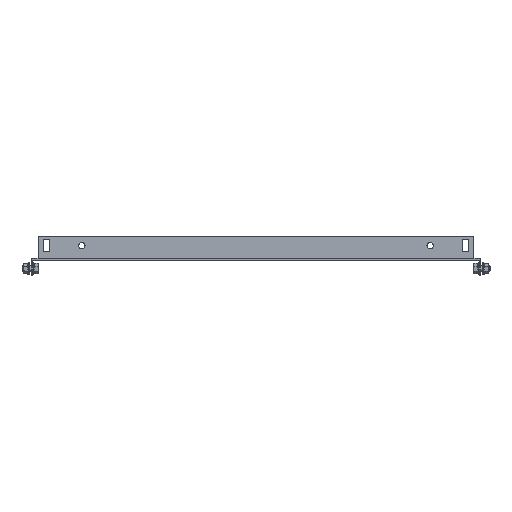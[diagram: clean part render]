
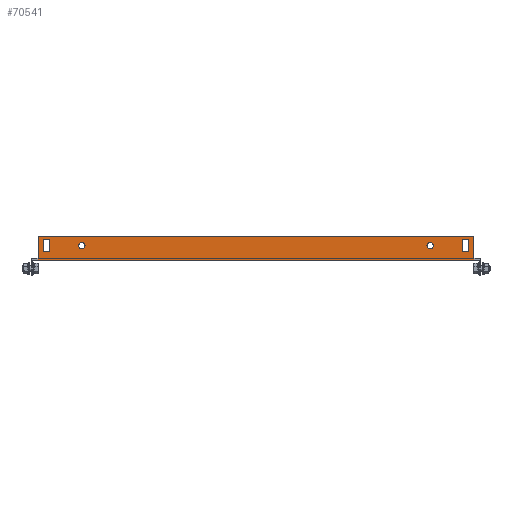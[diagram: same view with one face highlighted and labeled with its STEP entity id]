
A CAD part, front view. The second image highlights one B-rep face of the part: STEP entity #70541.
In plain terms, the highlighted planar face has unit normal (0, -1, 0).
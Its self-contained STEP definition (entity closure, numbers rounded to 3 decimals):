
#63336 = VERTEX_POINT('',#63337);
#63337 = CARTESIAN_POINT('',(242.,-284.5,0.));
#63343 = EDGE_CURVE('',#63344,#63336,#63346,.T.);
#63344 = VERTEX_POINT('',#63345);
#63345 = CARTESIAN_POINT('',(-242.,-284.5,0.));
#63346 = LINE('',#63347,#63348);
#63347 = CARTESIAN_POINT('',(-242.,-284.5,0.));
#63348 = VECTOR('',#63349,1.);
#63349 = DIRECTION('',(1.,-0.,-0.));
#70420 = VERTEX_POINT('',#70421);
#70421 = CARTESIAN_POINT('',(-242.,-284.5,2.6));
#70436 = EDGE_CURVE('',#70420,#63344,#70437,.T.);
#70437 = LINE('',#70438,#70439);
#70438 = CARTESIAN_POINT('',(-242.,-284.5,2.6));
#70439 = VECTOR('',#70440,1.);
#70440 = DIRECTION('',(0.,0.,-1.));
#70460 = VERTEX_POINT('',#70461);
#70461 = CARTESIAN_POINT('',(242.,-284.5,2.6));
#70467 = EDGE_CURVE('',#70460,#63336,#70468,.T.);
#70468 = LINE('',#70469,#70470);
#70469 = CARTESIAN_POINT('',(242.,-284.5,2.));
#70470 = VECTOR('',#70471,1.);
#70471 = DIRECTION('',(-0.,0.,-1.));
#70493 = VERTEX_POINT('',#70494);
#70494 = CARTESIAN_POINT('',(242.,-284.5,26.));
#70500 = EDGE_CURVE('',#70460,#70493,#70501,.T.);
#70501 = LINE('',#70502,#70503);
#70502 = CARTESIAN_POINT('',(242.,-284.5,26.));
#70503 = VECTOR('',#70504,1.);
#70504 = DIRECTION('',(-0.,0.,1.));
#70515 = EDGE_CURVE('',#70516,#70420,#70518,.T.);
#70516 = VERTEX_POINT('',#70517);
#70517 = CARTESIAN_POINT('',(-242.,-284.5,26.));
#70518 = LINE('',#70519,#70520);
#70519 = CARTESIAN_POINT('',(-242.,-284.5,2.));
#70520 = VECTOR('',#70521,1.);
#70521 = DIRECTION('',(-0.,0.,-1.));
#70541 = ADVANCED_FACE('',(#70542,#70576,#70587,#70598,#70632),#70645,
  .F.);
#70542 = FACE_BOUND('',#70543,.T.);
#70543 = EDGE_LOOP('',(#70544,#70554,#70562,#70570));
#70544 = ORIENTED_EDGE('',*,*,#70545,.F.);
#70545 = EDGE_CURVE('',#70546,#70548,#70550,.T.);
#70546 = VERTEX_POINT('',#70547);
#70547 = CARTESIAN_POINT('',(236.5,-284.5,9.));
#70548 = VERTEX_POINT('',#70549);
#70549 = CARTESIAN_POINT('',(236.5,-284.5,23.));
#70550 = LINE('',#70551,#70552);
#70551 = CARTESIAN_POINT('',(236.5,-284.5,23.));
#70552 = VECTOR('',#70553,1.);
#70553 = DIRECTION('',(-0.,-0.,1.));
#70554 = ORIENTED_EDGE('',*,*,#70555,.F.);
#70555 = EDGE_CURVE('',#70556,#70546,#70558,.T.);
#70556 = VERTEX_POINT('',#70557);
#70557 = CARTESIAN_POINT('',(229.5,-284.5,9.));
#70558 = LINE('',#70559,#70560);
#70559 = CARTESIAN_POINT('',(236.5,-284.5,9.));
#70560 = VECTOR('',#70561,1.);
#70561 = DIRECTION('',(1.,-0.,-0.));
#70562 = ORIENTED_EDGE('',*,*,#70563,.F.);
#70563 = EDGE_CURVE('',#70564,#70556,#70566,.T.);
#70564 = VERTEX_POINT('',#70565);
#70565 = CARTESIAN_POINT('',(229.5,-284.5,23.));
#70566 = LINE('',#70567,#70568);
#70567 = CARTESIAN_POINT('',(229.5,-284.5,9.));
#70568 = VECTOR('',#70569,1.);
#70569 = DIRECTION('',(0.,-0.,-1.));
#70570 = ORIENTED_EDGE('',*,*,#70571,.F.);
#70571 = EDGE_CURVE('',#70548,#70564,#70572,.T.);
#70572 = LINE('',#70573,#70574);
#70573 = CARTESIAN_POINT('',(229.5,-284.5,23.));
#70574 = VECTOR('',#70575,1.);
#70575 = DIRECTION('',(-1.,-0.,-0.));
#70576 = FACE_BOUND('',#70577,.T.);
#70577 = EDGE_LOOP('',(#70578));
#70578 = ORIENTED_EDGE('',*,*,#70579,.F.);
#70579 = EDGE_CURVE('',#70580,#70580,#70582,.T.);
#70580 = VERTEX_POINT('',#70581);
#70581 = CARTESIAN_POINT('',(193.5,-284.5,19.5));
#70582 = CIRCLE('',#70583,3.5);
#70583 = AXIS2_PLACEMENT_3D('',#70584,#70585,#70586);
#70584 = CARTESIAN_POINT('',(193.5,-284.5,16.));
#70585 = DIRECTION('',(0.,-1.,0.));
#70586 = DIRECTION('',(0.,0.,1.));
#70587 = FACE_BOUND('',#70588,.T.);
#70588 = EDGE_LOOP('',(#70589));
#70589 = ORIENTED_EDGE('',*,*,#70590,.F.);
#70590 = EDGE_CURVE('',#70591,#70591,#70593,.T.);
#70591 = VERTEX_POINT('',#70592);
#70592 = CARTESIAN_POINT('',(-193.5,-284.5,12.5));
#70593 = CIRCLE('',#70594,3.5);
#70594 = AXIS2_PLACEMENT_3D('',#70595,#70596,#70597);
#70595 = CARTESIAN_POINT('',(-193.5,-284.5,16.));
#70596 = DIRECTION('',(0.,-1.,0.));
#70597 = DIRECTION('',(0.,0.,-1.));
#70598 = FACE_BOUND('',#70599,.T.);
#70599 = EDGE_LOOP('',(#70600,#70610,#70618,#70626));
#70600 = ORIENTED_EDGE('',*,*,#70601,.F.);
#70601 = EDGE_CURVE('',#70602,#70604,#70606,.T.);
#70602 = VERTEX_POINT('',#70603);
#70603 = CARTESIAN_POINT('',(-236.5,-284.5,23.));
#70604 = VERTEX_POINT('',#70605);
#70605 = CARTESIAN_POINT('',(-236.5,-284.5,9.));
#70606 = LINE('',#70607,#70608);
#70607 = CARTESIAN_POINT('',(-236.5,-284.5,9.));
#70608 = VECTOR('',#70609,1.);
#70609 = DIRECTION('',(-0.,-0.,-1.));
#70610 = ORIENTED_EDGE('',*,*,#70611,.F.);
#70611 = EDGE_CURVE('',#70612,#70602,#70614,.T.);
#70612 = VERTEX_POINT('',#70613);
#70613 = CARTESIAN_POINT('',(-229.5,-284.5,23.));
#70614 = LINE('',#70615,#70616);
#70615 = CARTESIAN_POINT('',(-236.5,-284.5,23.));
#70616 = VECTOR('',#70617,1.);
#70617 = DIRECTION('',(-1.,-0.,-0.));
#70618 = ORIENTED_EDGE('',*,*,#70619,.F.);
#70619 = EDGE_CURVE('',#70620,#70612,#70622,.T.);
#70620 = VERTEX_POINT('',#70621);
#70621 = CARTESIAN_POINT('',(-229.5,-284.5,9.));
#70622 = LINE('',#70623,#70624);
#70623 = CARTESIAN_POINT('',(-229.5,-284.5,23.));
#70624 = VECTOR('',#70625,1.);
#70625 = DIRECTION('',(-0.,-0.,1.));
#70626 = ORIENTED_EDGE('',*,*,#70627,.F.);
#70627 = EDGE_CURVE('',#70604,#70620,#70628,.T.);
#70628 = LINE('',#70629,#70630);
#70629 = CARTESIAN_POINT('',(-229.5,-284.5,9.));
#70630 = VECTOR('',#70631,1.);
#70631 = DIRECTION('',(1.,-0.,-0.));
#70632 = FACE_BOUND('',#70633,.T.);
#70633 = EDGE_LOOP('',(#70634,#70635,#70636,#70637,#70638,#70639));
#70634 = ORIENTED_EDGE('',*,*,#70515,.T.);
#70635 = ORIENTED_EDGE('',*,*,#70436,.T.);
#70636 = ORIENTED_EDGE('',*,*,#63343,.T.);
#70637 = ORIENTED_EDGE('',*,*,#70467,.F.);
#70638 = ORIENTED_EDGE('',*,*,#70500,.T.);
#70639 = ORIENTED_EDGE('',*,*,#70640,.T.);
#70640 = EDGE_CURVE('',#70493,#70516,#70641,.T.);
#70641 = LINE('',#70642,#70643);
#70642 = CARTESIAN_POINT('',(-242.,-284.5,26.));
#70643 = VECTOR('',#70644,1.);
#70644 = DIRECTION('',(-1.,-0.,-0.));
#70645 = PLANE('',#70646);
#70646 = AXIS2_PLACEMENT_3D('',#70647,#70648,#70649);
#70647 = CARTESIAN_POINT('',(242.,-284.5,2.));
#70648 = DIRECTION('',(-0.,1.,0.));
#70649 = DIRECTION('',(0.,0.,1.));
